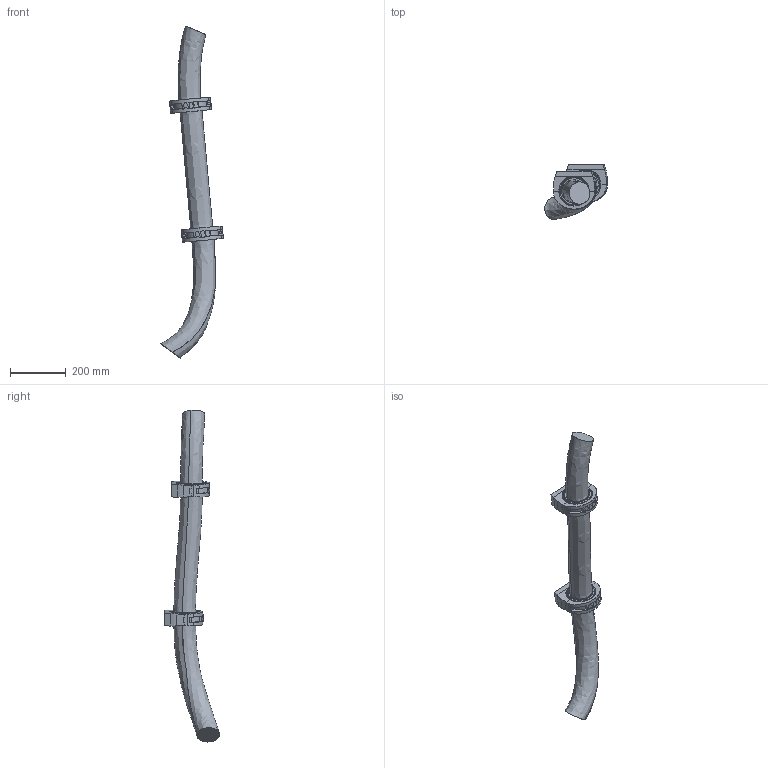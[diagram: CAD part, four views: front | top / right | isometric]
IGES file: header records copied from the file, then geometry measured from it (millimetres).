
Start section: SolidWorks IGES file using analytic representation for surfaces
Global section: file name: N:\DM\Robotics\SEROP_PROJ\Product Development\DevelopmentProjects\Manipulator_Modularity\04. Product Design\06. CAD\Amanda\6730S Simulation models\\IRB6730S-LID-MH_130kg-400_OC_01_IGES_J\IRB6730S-ALL-OC_00_LINK02_CABLE.igs; native system: SolidWorks 2024; preprocessor: SolidWorks 2024; author: SEJOHLUN; date: 251219.141445; units: millimetre
Bounding box: 225.27 x 196.55 x 1193.25 mm (x, y, z)
Surface area: 410810.8 mm2 (no closed solid volume)
Topology: 0 solids, 0 shells, 250 faces, 5025 edges, 5025 vertices
Faces by surface type: bspline 158, revolution 92
